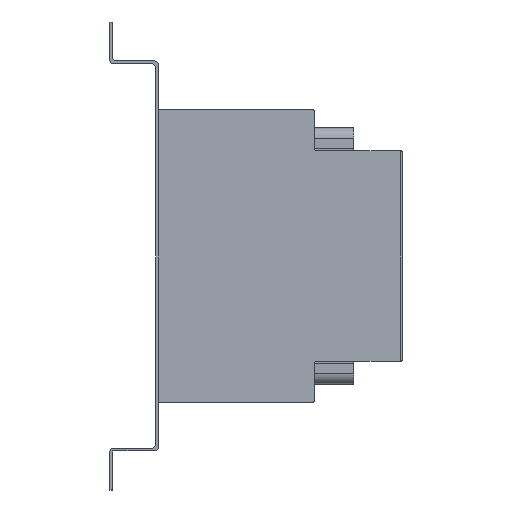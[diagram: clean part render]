
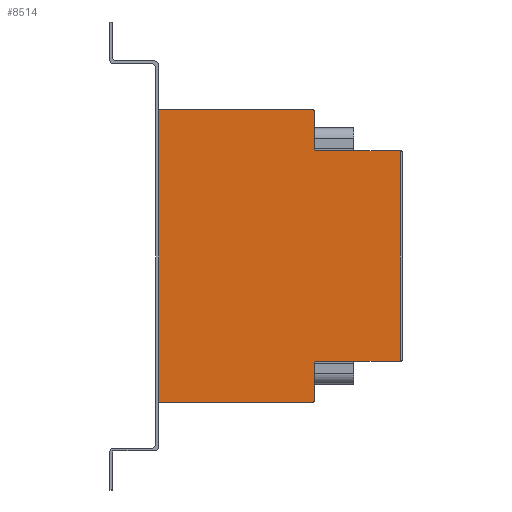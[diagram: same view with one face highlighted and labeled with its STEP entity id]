
A CAD part, left-side view. The second image highlights one B-rep face of the part: STEP entity #8514.
In plain terms, the highlighted planar face has unit normal (-1, 0, 0).
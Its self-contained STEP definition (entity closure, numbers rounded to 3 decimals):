
#293=PLANE('',#9070);
#633=FACE_OUTER_BOUND('',#1117,.T.);
#1117=EDGE_LOOP('',(#6235,#6236,#6237,#6238,#6239,#6240,#6241,#6242,#6243,
#6244,#6245,#6246));
#1619=LINE('',#12015,#2555);
#1685=LINE('',#12169,#2621);
#1712=LINE('',#12225,#2648);
#1812=LINE('',#12482,#2748);
#1839=LINE('',#12552,#2775);
#1846=LINE('',#12574,#2782);
#1847=LINE('',#12576,#2783);
#1848=LINE('',#12577,#2784);
#2555=VECTOR('',#9696,43.);
#2621=VECTOR('',#9798,43.);
#2648=VECTOR('',#9835,79.);
#2748=VECTOR('',#10063,79.);
#2775=VECTOR('',#10124,19.);
#2782=VECTOR('',#10153,108.);
#2783=VECTOR('',#10156,19.);
#2784=VECTOR('',#10157,150.);
#3472=CIRCLE('',#8960,1.);
#3476=CIRCLE('',#8974,1.);
#3518=CIRCLE('',#9055,1.);
#3520=CIRCLE('',#9061,1.);
#3728=VERTEX_POINT('',#12012);
#3729=VERTEX_POINT('',#12014);
#3766=VERTEX_POINT('',#12093);
#3798=VERTEX_POINT('',#12166);
#3799=VERTEX_POINT('',#12168);
#3817=VERTEX_POINT('',#12208);
#3818=VERTEX_POINT('',#12209);
#3823=VERTEX_POINT('',#12224);
#3915=VERTEX_POINT('',#12479);
#3916=VERTEX_POINT('',#12481);
#3938=VERTEX_POINT('',#12539);
#3942=VERTEX_POINT('',#12551);
#4578=EDGE_CURVE('',#3729,#3728,#1619,.T.);
#4618=EDGE_CURVE('',#3729,#3766,#3472,.T.);
#4654=EDGE_CURVE('',#3799,#3798,#1685,.T.);
#4675=EDGE_CURVE('',#3817,#3818,#3476,.T.);
#4683=EDGE_CURVE('',#3823,#3818,#1712,.T.);
#4816=EDGE_CURVE('',#3916,#3915,#1812,.T.);
#4846=EDGE_CURVE('',#3916,#3938,#3518,.T.);
#4852=EDGE_CURVE('',#3942,#3938,#1839,.T.);
#4855=EDGE_CURVE('',#3942,#3798,#3520,.T.);
#4865=EDGE_CURVE('',#3799,#3728,#1846,.T.);
#4866=EDGE_CURVE('',#3817,#3766,#1847,.T.);
#4867=EDGE_CURVE('',#3823,#3915,#1848,.T.);
#6235=ORIENTED_EDGE('',*,*,#4675,.F.);
#6236=ORIENTED_EDGE('',*,*,#4866,.T.);
#6237=ORIENTED_EDGE('',*,*,#4618,.F.);
#6238=ORIENTED_EDGE('',*,*,#4578,.T.);
#6239=ORIENTED_EDGE('',*,*,#4865,.F.);
#6240=ORIENTED_EDGE('',*,*,#4654,.T.);
#6241=ORIENTED_EDGE('',*,*,#4855,.F.);
#6242=ORIENTED_EDGE('',*,*,#4852,.T.);
#6243=ORIENTED_EDGE('',*,*,#4846,.F.);
#6244=ORIENTED_EDGE('',*,*,#4816,.T.);
#6245=ORIENTED_EDGE('',*,*,#4867,.F.);
#6246=ORIENTED_EDGE('',*,*,#4683,.T.);
#8514=ADVANCED_FACE('',(#633),#293,.T.);
#8960=AXIS2_PLACEMENT_3D('',#12094,#9743,#9744);
#8974=AXIS2_PLACEMENT_3D('',#12210,#9821,#9822);
#9055=AXIS2_PLACEMENT_3D('',#12540,#10112,#10113);
#9061=AXIS2_PLACEMENT_3D('',#12556,#10130,#10131);
#9070=AXIS2_PLACEMENT_3D('',#12575,#10154,#10155);
#9696=DIRECTION('',(0.,-1.,0.));
#9743=DIRECTION('center_axis',(-1.,0.,0.));
#9744=DIRECTION('ref_axis',(0.,0.707,0.707));
#9798=DIRECTION('',(0.,1.,0.));
#9821=DIRECTION('center_axis',(1.,0.,0.));
#9822=DIRECTION('ref_axis',(0.,-0.707,-0.707));
#9835=DIRECTION('',(0.,-1.,0.));
#10063=DIRECTION('',(0.,1.,0.));
#10112=DIRECTION('center_axis',(1.,0.,0.));
#10113=DIRECTION('ref_axis',(0.,-0.707,0.707));
#10124=DIRECTION('',(0.,0.,1.));
#10130=DIRECTION('center_axis',(-1.,0.,0.));
#10131=DIRECTION('ref_axis',(0.,0.707,-0.707));
#10153=DIRECTION('',(0.,0.,-1.));
#10154=DIRECTION('center_axis',(-1.,0.,0.));
#10155=DIRECTION('ref_axis',(0.,-1.,0.));
#10156=DIRECTION('',(0.,0.,1.));
#10157=DIRECTION('',(0.,0.,1.));
#12012=CARTESIAN_POINT('',(38.145,-278.265,42.5));
#12014=CARTESIAN_POINT('',(38.145,-235.265,42.5));
#12015=CARTESIAN_POINT('',(38.145,-234.265,42.5));
#12093=CARTESIAN_POINT('',(38.145,-234.265,41.5));
#12094=CARTESIAN_POINT('Origin',(38.145,-235.265,41.5));
#12166=CARTESIAN_POINT('',(38.145,-235.265,150.5));
#12168=CARTESIAN_POINT('',(38.145,-278.265,150.5));
#12169=CARTESIAN_POINT('',(38.145,-279.265,150.5));
#12208=CARTESIAN_POINT('',(38.145,-234.265,22.5));
#12209=CARTESIAN_POINT('',(38.145,-233.265,21.5));
#12210=CARTESIAN_POINT('Origin',(38.145,-233.265,22.5));
#12224=CARTESIAN_POINT('',(38.145,-154.265,21.5));
#12225=CARTESIAN_POINT('',(38.145,-154.265,21.5));
#12479=CARTESIAN_POINT('',(38.145,-154.265,171.5));
#12481=CARTESIAN_POINT('',(38.145,-233.265,171.5));
#12482=CARTESIAN_POINT('',(38.145,-234.265,171.5));
#12539=CARTESIAN_POINT('',(38.145,-234.265,170.5));
#12540=CARTESIAN_POINT('Origin',(38.145,-233.265,170.5));
#12551=CARTESIAN_POINT('',(38.145,-234.265,151.5));
#12552=CARTESIAN_POINT('',(38.145,-234.265,150.5));
#12556=CARTESIAN_POINT('Origin',(38.145,-235.265,151.5));
#12574=CARTESIAN_POINT('',(38.145,-278.265,69.5));
#12575=CARTESIAN_POINT('Origin',(38.145,-213.328,96.5));
#12576=CARTESIAN_POINT('',(38.145,-234.265,21.5));
#12577=CARTESIAN_POINT('',(38.145,-154.265,146.5));
